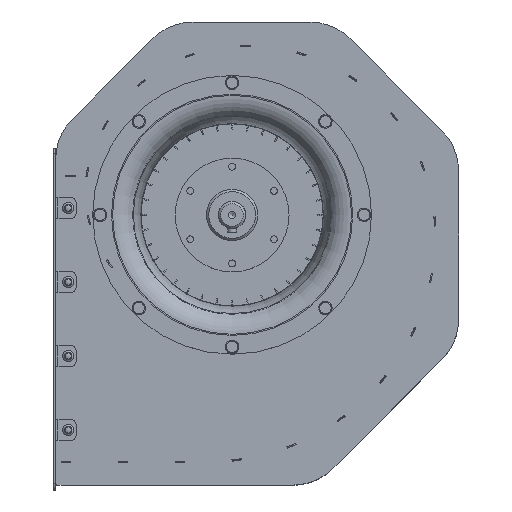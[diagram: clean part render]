
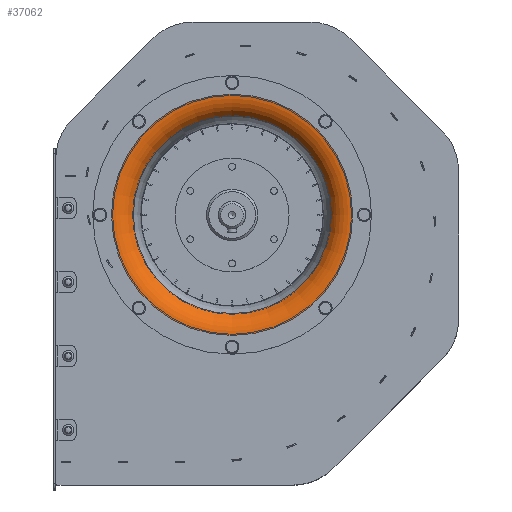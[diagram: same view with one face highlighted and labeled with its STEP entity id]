
A CAD part, top view. The second image highlights one B-rep face of the part: STEP entity #37062.
In plain terms, the highlighted toroidal (fillet/blend) face has major radius 106 mm and minor radius 22.262 mm.
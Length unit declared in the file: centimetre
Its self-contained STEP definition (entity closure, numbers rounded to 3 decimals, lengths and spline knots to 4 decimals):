
#6013=TOROIDAL_SURFACE('',#39411,10.6,2.2262);
#8170=FACE_BOUND('',#11239,.T.);
#8975=FACE_OUTER_BOUND('',#11238,.T.);
#11238=EDGE_LOOP('',(#24623));
#11239=EDGE_LOOP('',(#24624));
#14246=CIRCLE('',#39412,10.6);
#14247=CIRCLE('',#39413,8.6797);
#16087=VERTEX_POINT('',#54635);
#16088=VERTEX_POINT('',#54637);
#19538=EDGE_CURVE('',#16087,#16087,#14246,.T.);
#19539=EDGE_CURVE('',#16088,#16088,#14247,.T.);
#24623=ORIENTED_EDGE('',*,*,#19538,.F.);
#24624=ORIENTED_EDGE('',*,*,#19539,.T.);
#37062=ADVANCED_FACE('',(#8975,#8170),#6013,.T.);
#39411=AXIS2_PLACEMENT_3D('',#54634,#43627,#43628);
#39412=AXIS2_PLACEMENT_3D('',#54636,#43629,#43630);
#39413=AXIS2_PLACEMENT_3D('',#54638,#43631,#43632);
#43627=DIRECTION('center_axis',(0.,0.,
-1.));
#43628=DIRECTION('ref_axis',(0.,-1.,0.));
#43629=DIRECTION('center_axis',(0.,0.,
-1.));
#43630=DIRECTION('ref_axis',(1.,0.,0.));
#43631=DIRECTION('center_axis',(0.,0.,
-1.));
#43632=DIRECTION('ref_axis',(1.,0.,0.));
#54634=CARTESIAN_POINT('Origin',(0.,0.,
10.7938));
#54635=CARTESIAN_POINT('',(10.6,0.,13.02));
#54636=CARTESIAN_POINT('Origin',(0.,0.,
13.02));
#54637=CARTESIAN_POINT('',(8.6797,0.,11.92));
#54638=CARTESIAN_POINT('Origin',(0.,0.,
11.92));
